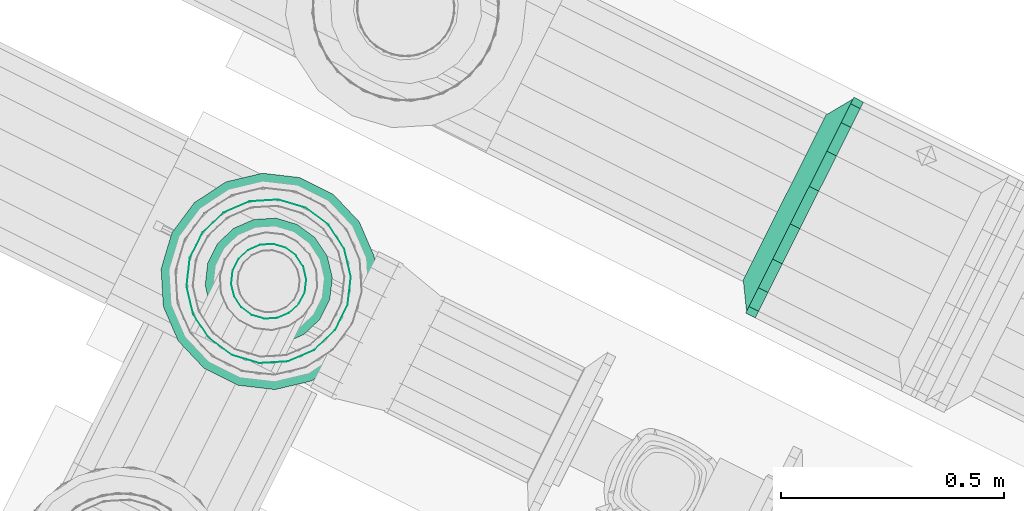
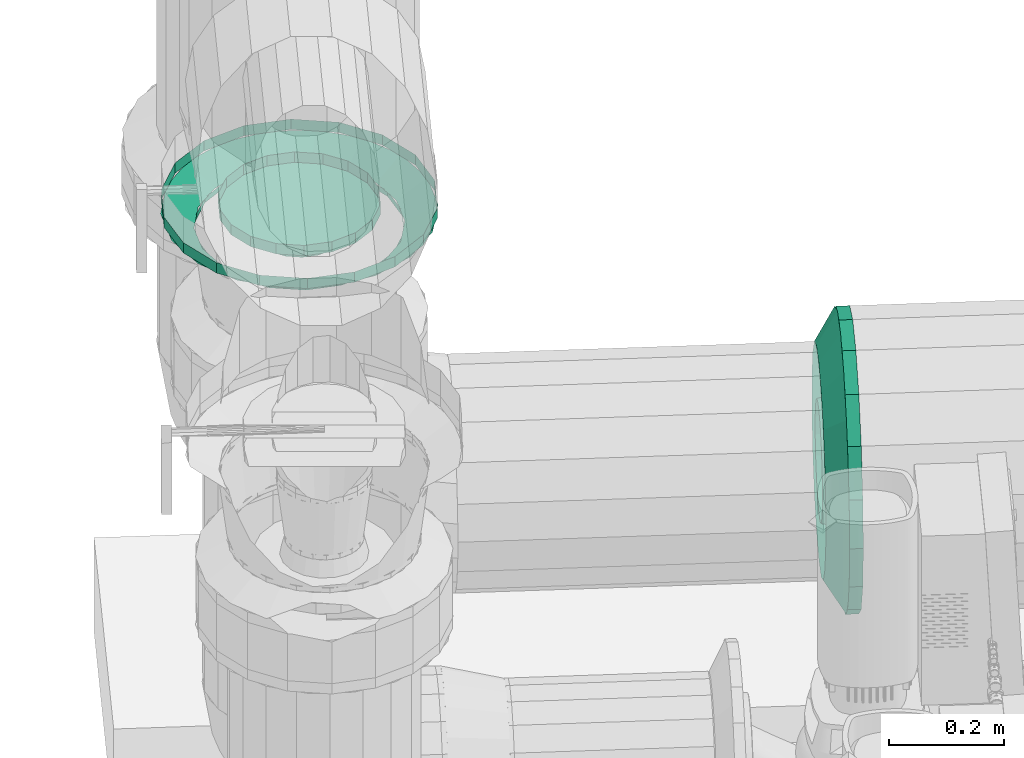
# One storey, part 119 of 152: 2 flow fittings, 1 flow segment.
"""IFC2X3 building model written with IfcOpenShell, lengths in metres."""

from ifc_helpers import new_model, si_unit, derived_unit, direction, frame, origin, place, context, subcontext, project, spatial, face_set, surface_model, source, transform, mapped, material, type_object, type_shapes, element, save


model = new_model("IFC2X3")

# Units and contexts
model_context = context("Model", 3, precision=5.2338327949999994e-05, world=origin(), true_north=direction((0.0, 1.0)))
body_context = subcontext(model_context, "Body", "Model", "MODEL_VIEW")
ifc_project = project(units=[si_unit("LENGTHUNIT", "METRE"), si_unit("AREAUNIT", "SQUARE_METRE"), si_unit("VOLUMEUNIT", "CUBIC_METRE"), si_unit("MASSUNIT", "GRAM", prefix="KILO"), si_unit("PLANEANGLEUNIT", "RADIAN"), derived_unit("THERMALTRANSMITTANCEUNIT", [(si_unit("MASSUNIT", "GRAM", prefix="KILO"), 1), (si_unit("THERMODYNAMICTEMPERATUREUNIT", "KELVIN"), -1), (si_unit("TIMEUNIT", "SECOND"), -3)])], contexts=[model_context])

# Site, building, storey
site_placement = place(None, frame((0.0, 0.0, 0.0), z_axis=(0.0, 0.0, 1.0), x_axis=(0.8939966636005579, -0.4480736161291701, 0.0)))
site = spatial("IfcSite", under=ifc_project, at=site_placement, Name="Default", CompositionType="ELEMENT")
building_placement = place(site_placement, origin())
building = spatial("IfcBuilding", under=site, at=building_placement, CompositionType="ELEMENT")
storey_placement = place(building_placement, frame((0.0, 0.0, 2.7499999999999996)))
storey = spatial("IfcBuildingStorey", under=building, at=storey_placement, Name="1. Obergeschoss", CompositionType="ELEMENT", Elevation=2.7499999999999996)

# Flow fitting
ifc_material_1 = material(Name="IfcSurfaceStyle #1741")
distribution_element_type_1 = type_object("IfcDistributionElementType", Name="Flansch 4825:Flansch 4825", material=ifc_material_1)
shared_shape_1 = source(origin(), body_context, "Body", "SurfaceModel", [
    surface_model("IfcFaceBasedSurfaceModel", [(10.573653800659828, 8.012208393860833, 3.3503200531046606), (10.573653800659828, 8.049676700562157, 3.3569267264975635), (10.611653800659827, 8.052395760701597, 3.349456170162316), (10.611653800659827, 8.012208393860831, 3.3423700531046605), (10.573653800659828, 8.082625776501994, 3.375949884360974), (10.611653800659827, 8.087735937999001, 3.369859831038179), (10.573653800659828, 8.107081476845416, 3.405095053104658), (10.611653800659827, 8.113966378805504, 3.4011200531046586), (10.573653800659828, 8.120094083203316, 3.440846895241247), (10.611653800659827, 8.127923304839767, 3.4394663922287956), (10.573653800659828, 8.12009408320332, 3.478893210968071), (10.611653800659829, 8.12792330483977, 3.480273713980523), (10.573653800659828, 8.107081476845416, 3.5146450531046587), (10.611653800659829, 8.113966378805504, 3.5186200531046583), (10.573653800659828, 8.082625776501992, 3.5437902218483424), (10.611653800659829, 8.087735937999, 3.549880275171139), (10.573653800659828, 8.04967670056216, 3.5628133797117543), (10.611653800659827, 8.052395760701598, 3.570283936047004), (10.573653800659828, 8.012208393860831, 3.569420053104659), (10.611653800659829, 8.012208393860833, 3.5773700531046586), (10.573653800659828, 7.974740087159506, 3.5628133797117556), (10.611653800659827, 7.9720210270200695, 3.570283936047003), (10.573653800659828, 7.941791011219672, 3.543790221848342), (10.611653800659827, 7.9366808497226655, 3.549880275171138), (10.573653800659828, 7.917335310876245, 3.5146450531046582), (10.61165380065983, 7.910450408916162, 3.5186200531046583), (10.573653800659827, 7.904322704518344, 3.478893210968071), (10.611653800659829, 7.896493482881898, 3.480273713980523), (10.573653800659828, 7.904322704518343, 3.4408468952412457), (10.611653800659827, 7.896493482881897, 3.4394663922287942), (10.573653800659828, 7.917335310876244, 3.405095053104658), (10.611653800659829, 7.9104504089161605, 3.4011200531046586), (10.573653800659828, 7.941791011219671, 3.3759498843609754), (10.611653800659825, 7.936680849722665, 3.3698598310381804), (10.573653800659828, 7.974740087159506, 3.3569267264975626), (10.611653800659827, 7.972021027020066, 3.349456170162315), (10.611653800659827, 8.182208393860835, 3.4598700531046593), (10.611653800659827, 8.171956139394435, 3.5180134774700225), (10.635653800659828, 8.171956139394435, 3.5180134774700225), (10.635653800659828, 8.182208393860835, 3.459870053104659), (10.611653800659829, 8.142435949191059, 3.5691439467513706), (10.635653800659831, 8.142435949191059, 3.5691439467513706), (10.611653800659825, 8.09720839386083, 3.6070943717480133), (10.635653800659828, 8.097208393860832, 3.6070943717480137), (10.611653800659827, 8.041728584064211, 3.627287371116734), (10.635653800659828, 8.041728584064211, 3.627287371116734), (10.611653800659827, 7.982688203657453, 3.627287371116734), (10.635653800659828, 7.982688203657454, 3.627287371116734), (10.611653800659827, 7.927208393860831, 3.6070943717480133), (10.635653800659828, 7.927208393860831, 3.6070943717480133), (10.611653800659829, 7.881980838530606, 3.56914394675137), (10.635653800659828, 7.881980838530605, 3.56914394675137), (10.611653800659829, 7.852460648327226, 3.5180134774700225), (10.63565380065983, 7.852460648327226, 3.5180134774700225), (10.611653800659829, 7.842208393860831, 3.4598700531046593), (10.63565380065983, 7.842208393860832, 3.459870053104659), (10.611653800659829, 7.852460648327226, 3.401726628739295), (10.63565380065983, 7.852460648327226, 3.401726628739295), (10.611653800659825, 7.881980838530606, 3.350596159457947), (10.635653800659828, 7.881980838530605, 3.3505961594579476), (10.611653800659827, 7.927208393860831, 3.312645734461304), (10.635653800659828, 7.927208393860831, 3.312645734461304), (10.611653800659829, 7.982688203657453, 3.292452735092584), (10.635653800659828, 7.982688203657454, 3.2924527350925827), (10.611653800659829, 8.041728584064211, 3.292452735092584), (10.63565380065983, 8.041728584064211, 3.2924527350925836), (10.611653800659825, 8.097208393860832, 3.3126457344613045), (10.635653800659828, 8.097208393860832, 3.3126457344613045), (10.611653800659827, 8.142435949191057, 3.350596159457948), (10.635653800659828, 8.14243594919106, 3.350596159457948), (10.611653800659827, 8.171956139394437, 3.401726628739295), (10.635653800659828, 8.171956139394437, 3.401726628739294), (10.61165380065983, 8.012208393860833, 3.459870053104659), (10.573653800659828, 8.012208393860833, 3.2503200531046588), (10.573653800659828, 8.083878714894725, 3.262957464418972), (10.611653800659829, 8.104553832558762, 3.206153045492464), (10.611653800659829, 8.012208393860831, 3.1898700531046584), (10.57365380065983, 8.146904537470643, 3.299345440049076), (10.611653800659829, 8.185761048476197, 3.2530380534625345), (10.573653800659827, 8.193684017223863, 3.3550950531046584), (10.611653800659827, 8.24603525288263, 3.3248700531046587), (10.573653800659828, 8.218574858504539, 3.4234820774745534), (10.611653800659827, 8.278106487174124, 3.412985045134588), (10.57365380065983, 8.218574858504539, 3.4962580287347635), (10.611653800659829, 8.278106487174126, 3.5067550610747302), (10.573653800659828, 8.193684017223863, 3.5646450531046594), (10.611653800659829, 8.246035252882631, 3.5948700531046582), (10.573653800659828, 8.146904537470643, 3.6203946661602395), (10.611653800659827, 8.185761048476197, 3.6667020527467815), (10.573653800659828, 8.083878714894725, 3.656782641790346), (10.611653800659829, 8.104553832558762, 3.713587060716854), (10.573653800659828, 8.012208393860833, 3.669420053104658), (10.611653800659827, 8.012208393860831, 3.7298700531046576), (10.573653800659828, 7.9405380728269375, 3.6567826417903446), (10.611653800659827, 7.9198629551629, 3.7135870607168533), (10.57365380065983, 7.877512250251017, 3.6203946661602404), (10.611653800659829, 7.838655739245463, 3.6667020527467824), (10.573653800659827, 7.830732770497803, 3.5646450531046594), (10.611653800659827, 7.778381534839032, 3.5948700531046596), (10.573653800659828, 7.805841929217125, 3.496258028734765), (10.611653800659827, 7.746310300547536, 3.5067550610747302), (10.573653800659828, 7.805841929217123, 3.4234820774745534), (10.611653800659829, 7.746310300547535, 3.412985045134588), (10.573653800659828, 7.830732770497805, 3.355095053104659), (10.611653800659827, 7.778381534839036, 3.324870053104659), (10.57365380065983, 7.877512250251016, 3.2993454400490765), (10.611653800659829, 7.838655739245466, 3.2530380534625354), (10.57365380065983, 7.940538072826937, 3.2629574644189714), (10.611653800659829, 7.919862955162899, 3.206153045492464), (10.611653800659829, 8.28220839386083, 3.4598700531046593), (10.611653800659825, 8.265925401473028, 3.5522154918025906), (10.635653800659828, 8.265925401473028, 3.552215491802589), (10.635653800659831, 8.282208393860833, 3.4598700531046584), (10.611653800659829, 8.219040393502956, 3.633422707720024), (10.635653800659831, 8.219040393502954, 3.6334227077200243), (10.611653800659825, 8.147208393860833, 3.693696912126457), (10.635653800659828, 8.147208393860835, 3.6936969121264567), (10.611653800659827, 8.059093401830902, 3.7257681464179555), (10.635653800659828, 8.059093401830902, 3.7257681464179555), (10.611653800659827, 7.965323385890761, 3.7257681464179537), (10.635653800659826, 7.965323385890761, 3.7257681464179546), (10.611653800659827, 7.8772083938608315, 3.6936969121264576), (10.635653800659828, 7.8772083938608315, 3.6936969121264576), (10.611653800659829, 7.805376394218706, 3.6334227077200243), (10.635653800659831, 7.805376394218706, 3.633422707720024), (10.611653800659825, 7.758491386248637, 3.55221549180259), (10.635653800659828, 7.758491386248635, 3.55221549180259), (10.611653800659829, 7.742208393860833, 3.4598700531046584), (10.635653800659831, 7.742208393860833, 3.459870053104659), (10.611653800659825, 7.758491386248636, 3.367524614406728), (10.635653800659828, 7.758491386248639, 3.367524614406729), (10.611653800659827, 7.805376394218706, 3.2863173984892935), (10.635653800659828, 7.805376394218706, 3.2863173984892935), (10.611653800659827, 7.877208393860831, 3.22604319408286), (10.635653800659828, 7.877208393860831, 3.22604319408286), (10.611653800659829, 7.96532338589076, 3.193971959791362), (10.635653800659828, 7.965323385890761, 3.1939719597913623), (10.611653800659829, 8.059093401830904, 3.1939719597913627), (10.63565380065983, 8.059093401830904, 3.1939719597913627), (10.611653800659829, 8.147208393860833, 3.226043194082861), (10.635653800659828, 8.147208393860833, 3.22604319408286), (10.611653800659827, 8.219040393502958, 3.2863173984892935), (10.635653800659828, 8.219040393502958, 3.2863173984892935), (10.611653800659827, 8.265925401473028, 3.367524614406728), (10.635653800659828, 8.265925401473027, 3.367524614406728)], [face_set([[[0, 1, 2, 3]], [[1, 4, 5, 2]], [[4, 6, 7, 5]], [[6, 8, 9, 7]], [[8, 10, 11, 9]], [[10, 12, 13, 11]], [[12, 14, 15, 13]], [[14, 16, 17, 15]], [[16, 18, 19, 17]], [[18, 20, 21, 19]], [[20, 22, 23, 21]], [[22, 24, 25, 23]], [[24, 26, 27, 25]], [[26, 28, 29, 27]], [[28, 30, 31, 29]], [[30, 32, 33, 31]], [[32, 34, 35, 33]], [[34, 0, 3, 35]], [[36, 37, 38, 39]], [[37, 40, 41, 38]], [[40, 42, 43, 41]], [[42, 44, 45, 43]], [[44, 46, 47, 45]], [[46, 48, 49, 47]], [[48, 50, 51, 49]], [[50, 52, 53, 51]], [[52, 54, 55, 53]], [[54, 56, 57, 55]], [[56, 58, 59, 57]], [[58, 60, 61, 59]], [[60, 62, 63, 61]], [[62, 64, 65, 63]], [[64, 66, 67, 65]], [[66, 68, 69, 67]], [[68, 70, 71, 69]], [[70, 36, 39, 71]], [[72, 37, 36]], [[72, 40, 37]], [[72, 42, 40]], [[72, 44, 42]], [[72, 46, 44]], [[72, 48, 46]], [[72, 50, 48]], [[72, 52, 50]], [[72, 54, 52]], [[72, 56, 54]], [[72, 58, 56]], [[72, 60, 58]], [[72, 62, 60]], [[72, 64, 62]], [[72, 66, 64]], [[72, 68, 66]], [[72, 70, 68]], [[72, 36, 70]], [[73, 74, 75, 76]], [[74, 77, 78, 75]], [[77, 79, 80, 78]], [[79, 81, 82, 80]], [[81, 83, 84, 82]], [[83, 85, 86, 84]], [[85, 87, 88, 86]], [[87, 89, 90, 88]], [[89, 91, 92, 90]], [[91, 93, 94, 92]], [[93, 95, 96, 94]], [[95, 97, 98, 96]], [[97, 99, 100, 98]], [[99, 101, 102, 100]], [[101, 103, 104, 102]], [[103, 105, 106, 104]], [[105, 107, 108, 106]], [[107, 73, 76, 108]], [[109, 110, 111, 112]], [[110, 113, 114, 111]], [[113, 115, 116, 114]], [[115, 117, 118, 116]], [[117, 119, 120, 118]], [[119, 121, 122, 120]], [[121, 123, 124, 122]], [[123, 125, 126, 124]], [[125, 127, 128, 126]], [[127, 129, 130, 128]], [[129, 131, 132, 130]], [[131, 133, 134, 132]], [[133, 135, 136, 134]], [[135, 137, 138, 136]], [[137, 139, 140, 138]], [[139, 141, 142, 140]], [[141, 143, 144, 142]], [[143, 109, 112, 144]]])]),
])
type_shapes(distribution_element_type_1, [shared_shape_1])
flow_fitting_1_placement = place(storey_placement, frame((0.0, 0.0, -2.7499999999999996)))
element("IfcFlowFitting", 1, at=flow_fitting_1_placement, inside=storey, type_object=distribution_element_type_1, material=ifc_material_1, Name="Flansch", ObjectType="Flansch", context=body_context, shape_type="MappedRepresentation", body=[
    mapped(shared_shape_1, transform((0.0, 0.0, 0.0), scale=1.0)),
])

# Flow segment
ifc_material_2 = material(Name="IfcSurfaceStyle #9317")
distribution_element_type_2 = type_object("IfcDistributionElementType", Name="Stahlrohr nach DIN 2448 235723:Stahlrohr nach DIN 2448 235723", material=ifc_material_2)
shared_shape_2 = source(origin(), body_context, "Body", "SurfaceModel", [
    surface_model("IfcFaceBasedSurfaceModel", [(9.625770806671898, 7.411358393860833, 4.47007198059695), (9.596989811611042, 7.406283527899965, 4.47007198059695), (9.596989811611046, 7.406283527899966, 4.481306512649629), (9.625770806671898, 7.411358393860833, 4.481306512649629), (9.571680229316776, 7.391671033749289, 4.47007198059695), (9.571680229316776, 7.39167103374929, 4.481306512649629), (9.552894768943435, 7.369283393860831, 4.47007198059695), (9.552894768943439, 7.369283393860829, 4.481306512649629), (9.54289923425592, 7.341820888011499, 4.47007198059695), (9.542899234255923, 7.341820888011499, 4.481306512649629), (9.542899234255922, 7.312595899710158, 4.47007198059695), (9.542899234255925, 7.312595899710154, 4.481306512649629), (9.552894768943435, 7.285133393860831, 4.47007198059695), (9.55289476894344, 7.285133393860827, 4.481306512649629), (9.571680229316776, 7.262745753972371, 4.47007198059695), (9.57168022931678, 7.262745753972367, 4.481306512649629), (9.59698981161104, 7.248133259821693, 4.47007198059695), (9.596989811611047, 7.248133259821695, 4.481306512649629), (9.625770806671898, 7.243058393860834, 4.47007198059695), (9.625770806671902, 7.243058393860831, 4.481306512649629), (9.654551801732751, 7.248133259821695, 4.47007198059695), (9.654551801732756, 7.248133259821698, 4.481306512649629), (9.679861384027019, 7.262745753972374, 4.47007198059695), (9.679861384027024, 7.262745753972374, 4.481306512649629), (9.698646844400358, 7.285133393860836, 4.47007198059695), (9.698646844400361, 7.285133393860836, 4.481306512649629), (9.708642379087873, 7.312595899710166, 4.47007198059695), (9.708642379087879, 7.312595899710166, 4.481306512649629), (9.708642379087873, 7.341820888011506, 4.47007198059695), (9.708642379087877, 7.34182088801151, 4.481306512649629), (9.69864684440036, 7.369283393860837, 4.47007198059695), (9.69864684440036, 7.369283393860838, 4.481306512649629), (9.679861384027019, 7.3916710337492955, 4.47007198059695), (9.679861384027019, 7.391671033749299, 4.481306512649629), (9.654551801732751, 7.406283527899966, 4.47007198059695), (9.654551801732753, 7.406283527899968, 4.481306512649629), (9.625770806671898, 7.511358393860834, 4.47007198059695), (9.562787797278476, 7.500252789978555, 4.47007198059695), (9.562787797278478, 7.500252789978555, 4.481306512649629), (9.625770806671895, 7.511358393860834, 4.481306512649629), (9.507401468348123, 7.468275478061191, 4.47007198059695), (9.507401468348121, 7.4682754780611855, 4.481306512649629), (9.466292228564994, 7.419283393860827, 4.47007198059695), (9.466292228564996, 7.419283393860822, 4.481306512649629), (9.4444184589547, 7.3591857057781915, 4.47007198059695), (9.444418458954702, 7.359185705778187, 4.481306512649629), (9.444418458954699, 7.29523108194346, 4.47007198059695), (9.444418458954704, 7.295231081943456, 4.481306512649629), (9.466292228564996, 7.235133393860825, 4.47007198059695), (9.466292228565, 7.2351333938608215, 4.481306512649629), (9.507401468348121, 7.186141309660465, 4.47007198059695), (9.507401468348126, 7.186141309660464, 4.481306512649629), (9.562787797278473, 7.154163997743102, 4.47007198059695), (9.562787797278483, 7.154163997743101, 4.481306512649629), (9.625770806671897, 7.143058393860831, 4.47007198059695), (9.625770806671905, 7.143058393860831, 4.481306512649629), (9.688753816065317, 7.15416399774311, 4.47007198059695), (9.688753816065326, 7.154163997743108, 4.481306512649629), (9.744140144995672, 7.186141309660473, 4.47007198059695), (9.74414014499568, 7.186141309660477, 4.481306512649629), (9.7852493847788, 7.235133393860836, 4.47007198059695), (9.785249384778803, 7.23513339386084, 4.481306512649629), (9.80712315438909, 7.295231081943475, 4.47007198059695), (9.807123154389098, 7.295231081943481, 4.481306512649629), (9.807123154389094, 7.359185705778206, 4.47007198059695), (9.807123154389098, 7.35918570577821, 4.481306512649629), (9.785249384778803, 7.419283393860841, 4.47007198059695), (9.785249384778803, 7.419283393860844, 4.481306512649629), (9.744140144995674, 7.468275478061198, 4.47007198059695), (9.744140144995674, 7.468275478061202, 4.481306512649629), (9.688753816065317, 7.5002527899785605, 4.47007198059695), (9.688753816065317, 7.500252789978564, 4.481306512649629)], [face_set([[[0, 1, 2, 3]], [[1, 4, 5, 2]], [[4, 6, 7, 5]], [[6, 8, 9, 7]], [[8, 10, 11, 9]], [[10, 12, 13, 11]], [[12, 14, 15, 13]], [[14, 16, 17, 15]], [[16, 18, 19, 17]], [[18, 20, 21, 19]], [[20, 22, 23, 21]], [[22, 24, 25, 23]], [[24, 26, 27, 25]], [[26, 28, 29, 27]], [[28, 30, 31, 29]], [[30, 32, 33, 31]], [[32, 34, 35, 33]], [[34, 0, 3, 35]], [[36, 37, 38, 39]], [[37, 40, 41, 38]], [[40, 42, 43, 41]], [[42, 44, 45, 43]], [[44, 46, 47, 45]], [[46, 48, 49, 47]], [[48, 50, 51, 49]], [[50, 52, 53, 51]], [[52, 54, 55, 53]], [[54, 56, 57, 55]], [[56, 58, 59, 57]], [[58, 60, 61, 59]], [[60, 62, 63, 61]], [[62, 64, 65, 63]], [[64, 66, 67, 65]], [[66, 68, 69, 67]], [[68, 70, 71, 69]], [[70, 36, 39, 71]]])]),
])
type_shapes(distribution_element_type_2, [shared_shape_2])
flow_segment_placement = place(storey_placement, frame((0.0, 0.0, -2.7499999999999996)))
element("IfcFlowSegment", 2, at=flow_segment_placement, inside=storey, type_object=distribution_element_type_2, material=ifc_material_2, Name="Stahlrohr nach DIN 2448", ObjectType="Stahlrohr nach DIN 2448", context=body_context, shape_type="MappedRepresentation", body=[
    mapped(shared_shape_2, transform((0.0, 0.0, 0.0), scale=1.0)),
])

# Flow fitting
distribution_element_type_3 = type_object("IfcDistributionElementType", Name="Flansch 236004:Flansch 236004", material=ifc_material_2)
shared_shape_3 = source(origin(), body_context, "Body", "SurfaceModel", [
    surface_model("IfcFaceBasedSurfaceModel", [(9.7099208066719, 7.327208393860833, 4.481306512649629), (9.704845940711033, 7.355989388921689, 4.481306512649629), (9.712222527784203, 7.3586742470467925, 4.514306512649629), (9.717770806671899, 7.327208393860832, 4.51430651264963), (9.690233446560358, 7.381298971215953, 4.481306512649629), (9.696246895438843, 7.386344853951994, 4.514306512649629), (9.667845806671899, 7.400084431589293, 4.481306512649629), (9.6717708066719, 7.406882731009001, 4.51430651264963), (9.64038330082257, 7.4100799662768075, 4.481306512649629), (9.641746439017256, 7.417810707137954, 4.51430651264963), (9.611158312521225, 7.410079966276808, 4.481306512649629), (9.60979517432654, 7.417810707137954, 4.514306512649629), (9.583695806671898, 7.400084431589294, 4.481306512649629), (9.579770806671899, 7.406882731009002, 4.514306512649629), (9.561308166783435, 7.381298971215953, 4.481306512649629), (9.555294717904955, 7.386344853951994, 4.514306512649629), (9.546695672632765, 7.355989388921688, 4.481306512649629), (9.539319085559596, 7.3586742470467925, 4.51430651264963), (9.541620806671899, 7.327208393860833, 4.481306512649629), (9.533770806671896, 7.3272083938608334, 4.514306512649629), (9.546695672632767, 7.298427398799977, 4.481306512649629), (9.539319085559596, 7.295742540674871, 4.514306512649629), (9.561308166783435, 7.27311781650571, 4.481306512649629), (9.555294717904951, 7.268071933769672, 4.51430651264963), (9.5836958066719, 7.254332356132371, 4.481306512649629), (9.5797708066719, 7.247534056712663, 4.51430651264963), (9.61115831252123, 7.244336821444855, 4.481306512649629), (9.60979517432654, 7.236606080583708, 4.51430651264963), (9.64038330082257, 7.244336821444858, 4.481306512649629), (9.641746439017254, 7.236606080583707, 4.51430651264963), (9.6678458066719, 7.254332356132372, 4.481306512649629), (9.671770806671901, 7.247534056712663, 4.51430651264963), (9.69023344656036, 7.273117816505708, 4.481306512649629), (9.696246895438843, 7.26807193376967, 4.51430651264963), (9.704845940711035, 7.298427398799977, 4.481306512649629), (9.712222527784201, 7.295742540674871, 4.514306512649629), (9.625770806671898, 7.184708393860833, 4.514306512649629), (9.67450867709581, 7.19330219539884, 4.514306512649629), (9.674508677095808, 7.193302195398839, 4.536306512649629), (9.6257708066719, 7.184708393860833, 4.536306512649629), (9.717368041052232, 7.218047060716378, 4.51430651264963), (9.717368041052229, 7.218047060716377, 4.536306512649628), (9.749179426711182, 7.2559583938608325, 4.51430651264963), (9.749179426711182, 7.2559583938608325, 4.536306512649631), (9.766105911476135, 7.3024635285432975, 4.514306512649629), (9.76610591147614, 7.302463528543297, 4.536306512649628), (9.766105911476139, 7.351953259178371, 4.514306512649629), (9.766105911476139, 7.351953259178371, 4.53630651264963), (9.749179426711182, 7.3984583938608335, 4.51430651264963), (9.749179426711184, 7.398458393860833, 4.536306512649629), (9.71736804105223, 7.436369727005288, 4.514306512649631), (9.71736804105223, 7.436369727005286, 4.536306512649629), (9.67450867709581, 7.461114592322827, 4.51430651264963), (9.674508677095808, 7.461114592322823, 4.53630651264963), (9.6257708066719, 7.469708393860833, 4.51430651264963), (9.625770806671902, 7.469708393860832, 4.536306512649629), (9.577032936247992, 7.461114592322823, 4.514306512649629), (9.577032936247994, 7.461114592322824, 4.536306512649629), (9.534173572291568, 7.436369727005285, 4.514306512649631), (9.53417357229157, 7.436369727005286, 4.536306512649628), (9.502362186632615, 7.398458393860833, 4.51430651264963), (9.502362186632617, 7.398458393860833, 4.53630651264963), (9.48543570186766, 7.35195325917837, 4.51430651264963), (9.48543570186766, 7.35195325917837, 4.536306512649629), (9.485435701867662, 7.302463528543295, 4.514306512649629), (9.485435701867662, 7.302463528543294, 4.536306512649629), (9.502362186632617, 7.2559583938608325, 4.51430651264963), (9.502362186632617, 7.2559583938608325, 4.53630651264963), (9.53417357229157, 7.218047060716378, 4.51430651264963), (9.534173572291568, 7.218047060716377, 4.536306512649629), (9.577032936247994, 7.19330219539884, 4.514306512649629), (9.577032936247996, 7.19330219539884, 4.536306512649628), (9.625770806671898, 7.3272083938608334, 4.514306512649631), (9.8099208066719, 7.327208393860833, 4.48130651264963), (9.798815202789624, 7.390191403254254, 4.48130651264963), (9.853646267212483, 7.4101482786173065, 4.51430651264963), (9.868270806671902, 7.3272083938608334, 4.514306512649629), (9.766837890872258, 7.445577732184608, 4.481306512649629), (9.811536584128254, 7.483084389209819, 4.514306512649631), (9.7178458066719, 7.486686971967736, 4.481306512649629), (9.747020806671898, 7.537219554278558, 4.514306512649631), (9.657748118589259, 7.508560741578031, 4.48130651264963), (9.667880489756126, 7.566024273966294, 4.514306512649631), (9.593793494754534, 7.508560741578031, 4.4813065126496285), (9.583661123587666, 7.566024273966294, 4.51430651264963), (9.533695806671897, 7.486686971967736, 4.4813065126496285), (9.504520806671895, 7.5372195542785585, 4.51430651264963), (9.484703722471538, 7.445577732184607, 4.481306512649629), (9.440005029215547, 7.483084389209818, 4.51430651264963), (9.452726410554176, 7.390191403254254, 4.48130651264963), (9.397895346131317, 7.410148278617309, 4.51430651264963), (9.4416208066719, 7.3272083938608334, 4.481306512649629), (9.3832708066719, 7.3272083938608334, 4.514306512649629), (9.452726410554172, 7.26422538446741, 4.4813065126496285), (9.397895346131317, 7.244268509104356, 4.514306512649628), (9.484703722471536, 7.208839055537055, 4.481306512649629), (9.440005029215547, 7.171332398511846, 4.51430651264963), (9.533695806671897, 7.167729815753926, 4.4813065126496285), (9.504520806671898, 7.1171972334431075, 4.514306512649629), (9.593793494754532, 7.145856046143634, 4.481306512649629), (9.583661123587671, 7.0883925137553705, 4.51430651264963), (9.657748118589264, 7.145856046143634, 4.4813065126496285), (9.667880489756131, 7.0883925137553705, 4.514306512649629), (9.7178458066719, 7.167729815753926, 4.481306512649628), (9.7470208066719, 7.1171972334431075, 4.514306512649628), (9.766837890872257, 7.208839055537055, 4.481306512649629), (9.811536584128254, 7.171332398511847, 4.51430651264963), (9.798815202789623, 7.26422538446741, 4.4813065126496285), (9.853646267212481, 7.2442685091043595, 4.514306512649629), (9.625770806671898, 7.084708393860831, 4.51430651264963), (9.708710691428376, 7.09933293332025, 4.514306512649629), (9.708710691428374, 7.09933293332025, 4.536306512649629), (9.625770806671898, 7.084708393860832, 4.53630651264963), (9.781646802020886, 7.14144261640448, 4.51430651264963), (9.781646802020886, 7.14144261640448, 4.536306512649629), (9.835781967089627, 7.205958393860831, 4.514306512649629), (9.835781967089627, 7.205958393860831, 4.536306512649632), (9.864586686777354, 7.2850987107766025, 4.51430651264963), (9.86458668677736, 7.285098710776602, 4.536306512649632), (9.864586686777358, 7.369318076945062, 4.514306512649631), (9.86458668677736, 7.369318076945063, 4.536306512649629), (9.835781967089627, 7.448458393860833, 4.51430651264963), (9.835781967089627, 7.448458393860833, 4.536306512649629), (9.781646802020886, 7.512974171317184, 4.514306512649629), (9.781646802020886, 7.512974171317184, 4.53630651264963), (9.708710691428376, 7.555083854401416, 4.514306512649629), (9.708710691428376, 7.555083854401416, 4.53630651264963), (9.6257708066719, 7.569708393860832, 4.514306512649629), (9.6257708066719, 7.569708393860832, 4.53630651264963), (9.542830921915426, 7.555083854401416, 4.514306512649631), (9.542830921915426, 7.555083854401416, 4.536306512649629), (9.469894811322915, 7.512974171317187, 4.51430651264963), (9.469894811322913, 7.512974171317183, 4.536306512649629), (9.415759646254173, 7.4484583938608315, 4.514306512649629), (9.415759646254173, 7.4484583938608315, 4.53630651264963), (9.386954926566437, 7.3693180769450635, 4.514306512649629), (9.38695492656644, 7.369318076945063, 4.536306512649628), (9.38695492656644, 7.285098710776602, 4.51430651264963), (9.386954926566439, 7.285098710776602, 4.536306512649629), (9.415759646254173, 7.205958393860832, 4.51430651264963), (9.415759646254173, 7.205958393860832, 4.53630651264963), (9.469894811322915, 7.141442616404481, 4.514306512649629), (9.469894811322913, 7.14144261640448, 4.536306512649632), (9.542830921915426, 7.099332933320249, 4.514306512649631), (9.542830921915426, 7.09933293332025, 4.536306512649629)], [face_set([[[0, 1, 2, 3]], [[1, 4, 5, 2]], [[4, 6, 7, 5]], [[6, 8, 9, 7]], [[8, 10, 11, 9]], [[10, 12, 13, 11]], [[12, 14, 15, 13]], [[14, 16, 17, 15]], [[16, 18, 19, 17]], [[18, 20, 21, 19]], [[20, 22, 23, 21]], [[22, 24, 25, 23]], [[24, 26, 27, 25]], [[26, 28, 29, 27]], [[28, 30, 31, 29]], [[30, 32, 33, 31]], [[32, 34, 35, 33]], [[34, 0, 3, 35]], [[36, 37, 38, 39]], [[37, 40, 41, 38]], [[40, 42, 43, 41]], [[42, 44, 45, 43]], [[44, 46, 47, 45]], [[46, 48, 49, 47]], [[48, 50, 51, 49]], [[50, 52, 53, 51]], [[52, 54, 55, 53]], [[54, 56, 57, 55]], [[56, 58, 59, 57]], [[58, 60, 61, 59]], [[60, 62, 63, 61]], [[62, 64, 65, 63]], [[64, 66, 67, 65]], [[66, 68, 69, 67]], [[68, 70, 71, 69]], [[70, 36, 39, 71]], [[72, 37, 36]], [[72, 40, 37]], [[72, 42, 40]], [[72, 44, 42]], [[72, 46, 44]], [[72, 48, 46]], [[72, 50, 48]], [[72, 52, 50]], [[72, 54, 52]], [[72, 56, 54]], [[72, 58, 56]], [[72, 60, 58]], [[72, 62, 60]], [[72, 64, 62]], [[72, 66, 64]], [[72, 68, 66]], [[72, 70, 68]], [[72, 36, 70]], [[73, 74, 75, 76]], [[74, 77, 78, 75]], [[77, 79, 80, 78]], [[79, 81, 82, 80]], [[81, 83, 84, 82]], [[83, 85, 86, 84]], [[85, 87, 88, 86]], [[87, 89, 90, 88]], [[89, 91, 92, 90]], [[91, 93, 94, 92]], [[93, 95, 96, 94]], [[95, 97, 98, 96]], [[97, 99, 100, 98]], [[99, 101, 102, 100]], [[101, 103, 104, 102]], [[103, 105, 106, 104]], [[105, 107, 108, 106]], [[107, 73, 76, 108]], [[109, 110, 111, 112]], [[110, 113, 114, 111]], [[113, 115, 116, 114]], [[115, 117, 118, 116]], [[117, 119, 120, 118]], [[119, 121, 122, 120]], [[121, 123, 124, 122]], [[123, 125, 126, 124]], [[125, 127, 128, 126]], [[127, 129, 130, 128]], [[129, 131, 132, 130]], [[131, 133, 134, 132]], [[133, 135, 136, 134]], [[135, 137, 138, 136]], [[137, 139, 140, 138]], [[139, 141, 142, 140]], [[141, 143, 144, 142]], [[143, 109, 112, 144]]])]),
])
type_shapes(distribution_element_type_3, [shared_shape_3])
flow_fitting_2_placement = place(storey_placement, frame((0.0, 0.0, -2.7499999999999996)))
element("IfcFlowFitting", 3, at=flow_fitting_2_placement, inside=storey, type_object=distribution_element_type_3, material=ifc_material_2, Name="Flansch", ObjectType="Flansch", context=body_context, shape_type="MappedRepresentation", body=[
    mapped(shared_shape_3, transform((0.0, 0.0, 0.0), scale=1.0)),
])

save(model, "model.ifc")
